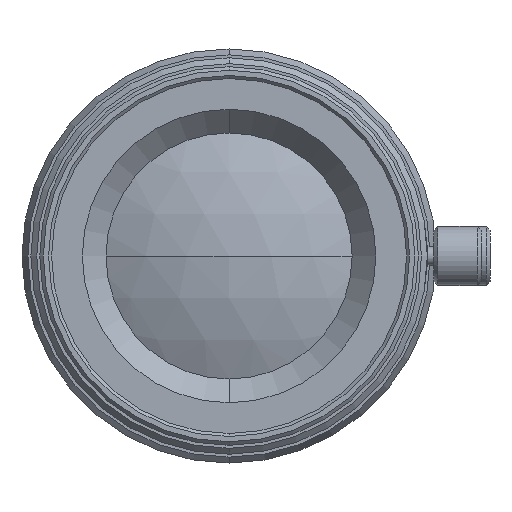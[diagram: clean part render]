
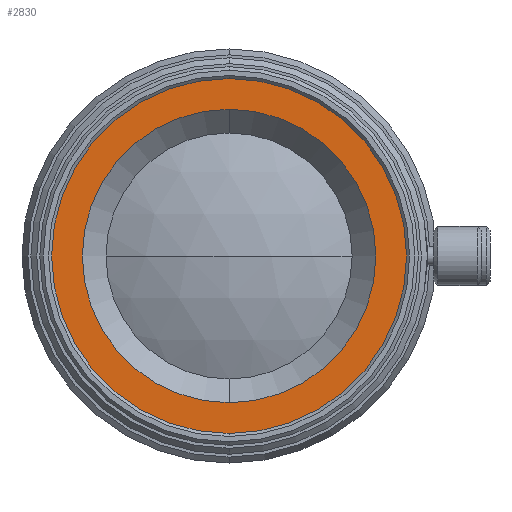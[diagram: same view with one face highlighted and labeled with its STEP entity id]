
A CAD part, left-side view. The second image highlights one B-rep face of the part: STEP entity #2830.
In plain terms, the highlighted planar face has unit normal (-1, 0, 0).
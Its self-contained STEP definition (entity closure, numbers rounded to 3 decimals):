
#77 = CARTESIAN_POINT ( 'NONE',  ( -27.522, 375.071, 0. ) ) ;
#281 = PLANE ( 'NONE',  #2897 ) ;
#316 = DIRECTION ( 'NONE',  ( 0., 0., -1. ) ) ;
#345 = FACE_OUTER_BOUND ( 'NONE', #1255, .T. ) ;
#363 = CIRCLE ( 'NONE', #3283, 12.4 ) ;
#461 = DIRECTION ( 'NONE',  ( 0., 0., 1. ) ) ;
#580 = VERTEX_POINT ( 'NONE', #3224 ) ;
#643 = DIRECTION ( 'NONE',  ( -1., 0., 0. ) ) ;
#950 = CARTESIAN_POINT ( 'NONE',  ( -27.522, 362.671, 0. ) ) ;
#964 = DIRECTION ( 'NONE',  ( -1., 0., 0. ) ) ;
#1018 = AXIS2_PLACEMENT_3D ( 'NONE', #950, #964, #1436 ) ;
#1043 = FACE_BOUND ( 'NONE', #1605, .T. ) ;
#1055 = EDGE_CURVE ( 'NONE', #2863, #2525, #2106, .T. ) ;
#1255 = EDGE_LOOP ( 'NONE', ( #2664, #2152 ) ) ;
#1325 = CARTESIAN_POINT ( 'NONE',  ( -27.522, 362.671, -15.25 ) ) ;
#1339 = DIRECTION ( 'NONE',  ( 1., 0., 0. ) ) ;
#1359 = CIRCLE ( 'NONE', #3226, 12.4 ) ;
#1366 = EDGE_CURVE ( 'NONE', #1569, #580, #1359, .T. ) ;
#1436 = DIRECTION ( 'NONE',  ( 0., 0., 1. ) ) ;
#1502 = CIRCLE ( 'NONE', #1018, 15.25 ) ;
#1560 = DIRECTION ( 'NONE',  ( -1., 0., 0. ) ) ;
#1569 = VERTEX_POINT ( 'NONE', #1842 ) ;
#1605 = EDGE_LOOP ( 'NONE', ( #2373, #2367 ) ) ;
#1767 = CARTESIAN_POINT ( 'NONE',  ( -27.522, 362.671, 0. ) ) ;
#1811 = DIRECTION ( 'NONE',  ( 0., 0., 1. ) ) ;
#1842 = CARTESIAN_POINT ( 'NONE',  ( -27.522, 362.671, -12.4 ) ) ;
#2101 = EDGE_CURVE ( 'NONE', #2525, #2863, #1502, .T. ) ;
#2106 = CIRCLE ( 'NONE', #3164, 15.25 ) ;
#2152 = ORIENTED_EDGE ( 'NONE', *, *, #1055, .T. ) ;
#2367 = ORIENTED_EDGE ( 'NONE', *, *, #1366, .F. ) ;
#2373 = ORIENTED_EDGE ( 'NONE', *, *, #3207, .F. ) ;
#2497 = DIRECTION ( 'NONE',  ( 0., 0., 1. ) ) ;
#2525 = VERTEX_POINT ( 'NONE', #2944 ) ;
#2664 = ORIENTED_EDGE ( 'NONE', *, *, #2101, .T. ) ;
#2830 = ADVANCED_FACE ( 'NONE', ( #1043, #345 ), #281, .F. ) ;
#2863 = VERTEX_POINT ( 'NONE', #1325 ) ;
#2897 = AXIS2_PLACEMENT_3D ( 'NONE', #77, #1339, #316 ) ;
#2944 = CARTESIAN_POINT ( 'NONE',  ( -27.522, 362.671, 15.25 ) ) ;
#3142 = CARTESIAN_POINT ( 'NONE',  ( -27.522, 362.671, 0. ) ) ;
#3164 = AXIS2_PLACEMENT_3D ( 'NONE', #1767, #3279, #2497 ) ;
#3175 = CARTESIAN_POINT ( 'NONE',  ( -27.522, 362.671, 0. ) ) ;
#3207 = EDGE_CURVE ( 'NONE', #580, #1569, #363, .T. ) ;
#3224 = CARTESIAN_POINT ( 'NONE',  ( -27.522, 362.671, 12.4 ) ) ;
#3226 = AXIS2_PLACEMENT_3D ( 'NONE', #3175, #643, #461 ) ;
#3279 = DIRECTION ( 'NONE',  ( -1., 0., 0. ) ) ;
#3283 = AXIS2_PLACEMENT_3D ( 'NONE', #3142, #1560, #1811 ) ;
